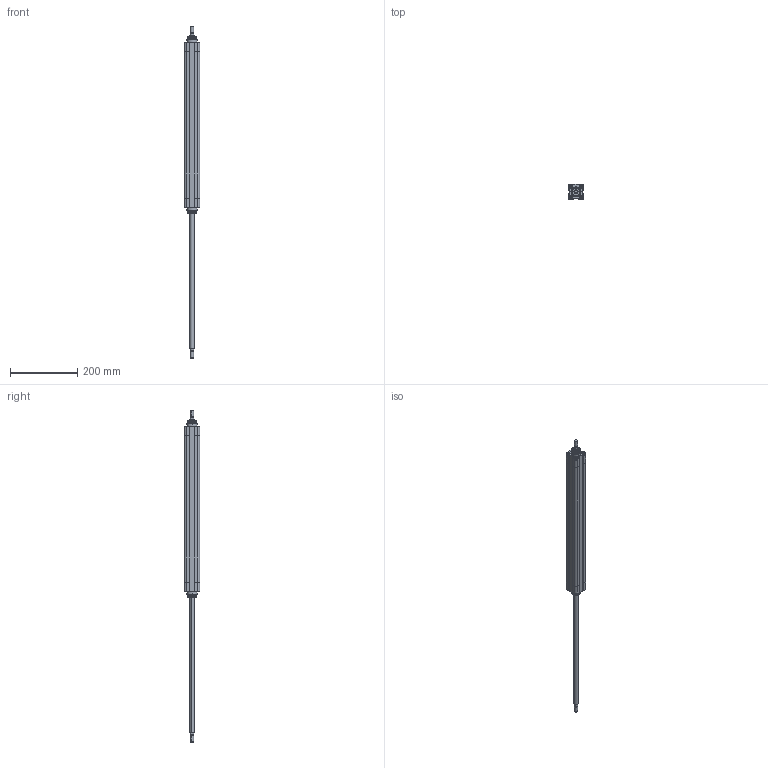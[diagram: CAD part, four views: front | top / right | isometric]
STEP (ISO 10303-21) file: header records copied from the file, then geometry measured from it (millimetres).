
FILE_DESCRIPTION((''),'2;1');
FILE_NAME('F:\Lib-3d\1380\CIL\1380_32_0400_02.stp','2004-01-07T16:00:35',('maffial1'),(''),'Autodesk Inventor 8','Autodesk Inventor 8','');
FILE_SCHEMA(('AUTOMOTIVE_DESIGN { 1 0 10303 214 1 1 1 1 }'));
Length unit declared in the file: millimetre
Products named in the file (3): 1380_32_0400_02; CPP04_32_400; CPP03_32_400
Assembly tree (2 placements, depth 2):
  1380_32_0400_02
    CPP04_32_400
    CPP03_32_400
Bounding box: 46 x 46 x 990 mm (x, y, z)
Volume: 985668.1 mm3; surface area: 178472.4 mm2
Topology: 2 solids, 2 shells, 236 faces, 564 edges, 356 vertices
Faces by surface type: plane 80, cylinder 66, bspline 62, cone 24, torus 4
Entity records: 7513 total; most frequent: CARTESIAN_POINT 2031, DIRECTION 1154, ORIENTED_EDGE 1096, EDGE_CURVE 548, AXIS2_PLACEMENT_3D 427, VERTEX_POINT 356, VECTOR 300, LINE 300
